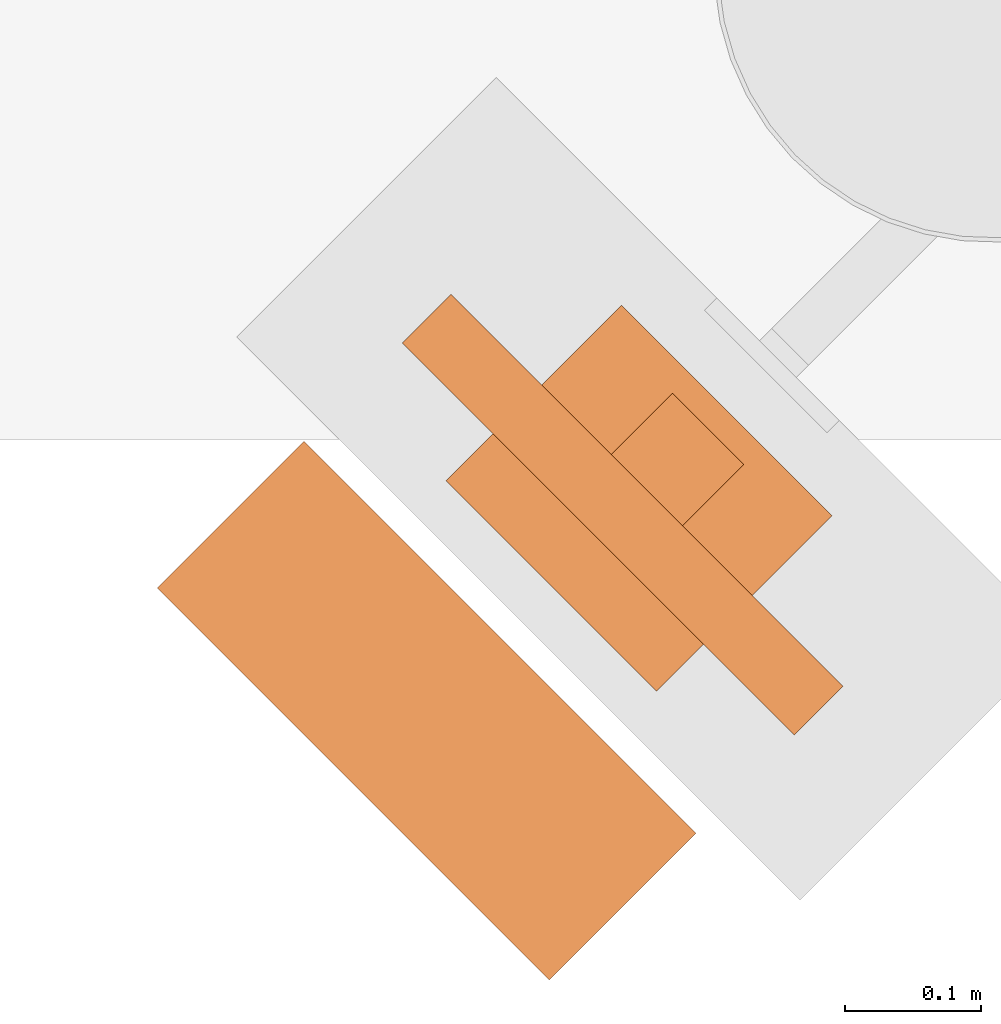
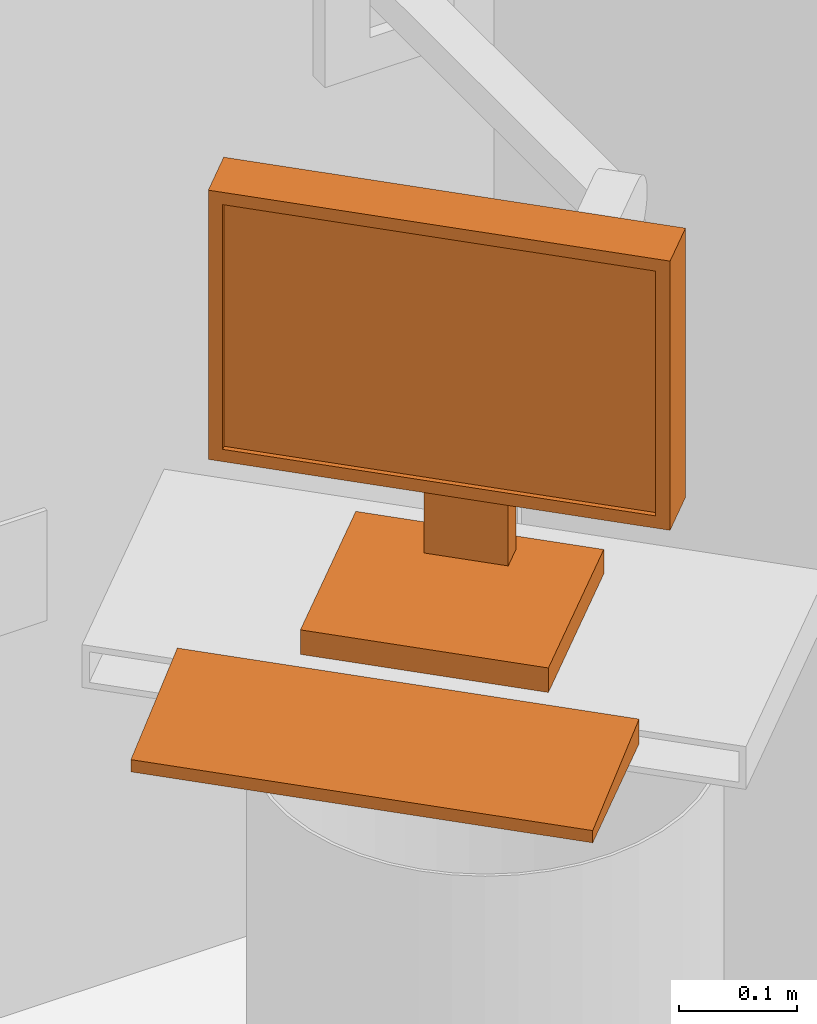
# One storey, part 3 of 3: 1 proxy.
"""IFC2X3 building model written with IfcOpenShell, lengths in feet."""

from ifc_helpers import new_model, entity, si_unit, converted_unit, derived_unit, direction, frame, origin, place, context, subcontext, project, spatial, faceted_brep, source, transform, mapped, type_object, type_shapes, element, save


model = new_model("IFC2X3")

# Units and contexts
model_context = context("Model", 3, precision=0.0001, world=origin(), true_north=direction((6.12303176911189e-17, 1.0)))
body_context = subcontext(model_context, "Body", "Model", "MODEL_VIEW")
ifc_project = project(units=[converted_unit("LENGTHUNIT", "FOOT", entity("IfcRatioMeasure", 0.3048), si_unit("LENGTHUNIT", "METRE"), dimensions=[1, 0, 0, 0, 0, 0, 0]), converted_unit("AREAUNIT", "SQUARE FOOT", entity("IfcRatioMeasure", 0.09290304), si_unit("AREAUNIT", "SQUARE_METRE"), dimensions=[2, 0, 0, 0, 0, 0, 0]), converted_unit("VOLUMEUNIT", "CUBIC FOOT", entity("IfcRatioMeasure", 0.028316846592), si_unit("VOLUMEUNIT", "CUBIC_METRE"), dimensions=[3, 0, 0, 0, 0, 0, 0]), converted_unit("PLANEANGLEUNIT", "DEGREE", entity("IfcRatioMeasure", 0.0174532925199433), si_unit("PLANEANGLEUNIT", "RADIAN"), dimensions=[0, 0, 0, 0, 0, 0, 0]), si_unit("MASSUNIT", "GRAM", prefix="KILO"), derived_unit("MASSDENSITYUNIT", [(si_unit("MASSUNIT", "GRAM", prefix="KILO"), 1), (si_unit("LENGTHUNIT", "METRE"), -3)]), si_unit("TIMEUNIT", "SECOND"), si_unit("FREQUENCYUNIT", "HERTZ"), si_unit("THERMODYNAMICTEMPERATUREUNIT", "DEGREE_CELSIUS"), derived_unit("THERMALTRANSMITTANCEUNIT", [(si_unit("MASSUNIT", "GRAM", prefix="KILO"), 1), (si_unit("THERMODYNAMICTEMPERATUREUNIT", "KELVIN"), -1), (si_unit("TIMEUNIT", "SECOND"), -3)]), derived_unit("VOLUMETRICFLOWRATEUNIT", [(si_unit("LENGTHUNIT", "METRE"), 3), (si_unit("TIMEUNIT", "SECOND"), -1)]), si_unit("ELECTRICCURRENTUNIT", "AMPERE"), si_unit("ELECTRICVOLTAGEUNIT", "VOLT"), si_unit("POWERUNIT", "WATT"), si_unit("FORCEUNIT", "NEWTON"), si_unit("ILLUMINANCEUNIT", "LUX"), si_unit("LUMINOUSFLUXUNIT", "LUMEN"), si_unit("LUMINOUSINTENSITYUNIT", "CANDELA"), derived_unit("USERDEFINED", [(si_unit("MASSUNIT", "GRAM", prefix="KILO"), -1), (si_unit("LENGTHUNIT", "METRE"), -2), (si_unit("TIMEUNIT", "SECOND"), 3), (si_unit("LUMINOUSFLUXUNIT", "LUMEN"), 1)]), derived_unit("LINEARVELOCITYUNIT", [(si_unit("LENGTHUNIT", "METRE"), 1), (si_unit("TIMEUNIT", "SECOND"), -1)]), si_unit("PRESSUREUNIT", "PASCAL"), derived_unit("USERDEFINED", [(si_unit("LENGTHUNIT", "METRE"), -2), (si_unit("MASSUNIT", "GRAM", prefix="KILO"), 1), (si_unit("TIMEUNIT", "SECOND"), -2)])], contexts=[model_context])

# Site, building, storey
site_placement = place(None, origin())
site = spatial("IfcSite", under=ifc_project, at=site_placement, Name="Default", CompositionType="ELEMENT")
building_placement = place(site_placement, origin())
building = spatial("IfcBuilding", under=site, at=building_placement, Name="OUTPATIENT / PACT CLINIC (Ch. 265)", CompositionType="ELEMENT")
storey_placement = place(building_placement, origin())
storey = spatial("IfcBuildingStorey", under=building, at=storey_placement, Name="DATUM", CompositionType="ELEMENT", Elevation=0.0)

# Proxy
building_element_proxy_type = type_object("IfcBuildingElementProxyType", Name="M1801 - Computer with Flat Panel Monitor", PredefinedType="NOTDEFINED")
shared_shape = source(origin(), body_context, "Body", "Brep", [
    faceted_brep([(0.666666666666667, -0.5625, 0.0), (0.666666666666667, -0.0624999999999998, 0.0), (0.666666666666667, -0.0624999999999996, 0.0833333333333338), (0.666666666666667, -0.5625, 0.0416666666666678), (-0.666666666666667, -0.5625, 0.0), (-0.666666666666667, -0.5625, 0.0416666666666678), (-0.666666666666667, -0.0624999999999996, 0.0833333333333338), (-0.666666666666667, -0.0624999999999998, 0.0)], [[[0, 1, 2, 3]], [[4, 5, 6, 7]], [[1, 0, 4, 7]], [[2, 1, 7, 6]], [[3, 2, 6, 5]], [[0, 3, 5, 4]]]),
    faceted_brep([(0.666666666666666, 0.437223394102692, 1.41666666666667), (-0.666666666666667, 0.437223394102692, 1.41666666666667), (-0.666666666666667, 0.271109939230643, 1.41666666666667), (0.666666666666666, 0.271109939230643, 1.41666666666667), (0.666666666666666, 0.437223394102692, 0.500000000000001), (0.666666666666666, 0.271109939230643, 0.500000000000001), (-0.666666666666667, 0.271109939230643, 0.500000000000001), (-0.666666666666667, 0.437223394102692, 0.500000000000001), (-0.625, 0.271109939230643, 1.375), (0.625, 0.271109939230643, 1.375), (0.625, 0.271109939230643, 0.541666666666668), (-0.625, 0.271109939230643, 0.541666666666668), (0.625, 0.286812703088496, 1.375), (-0.625, 0.286812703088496, 1.375), (0.625, 0.286812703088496, 0.541666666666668), (-0.625, 0.286812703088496, 0.541666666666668)], [[[0, 1, 2, 3]], [[4, 5, 6, 7]], [[1, 0, 4, 7]], [[2, 1, 7, 6]], [[3, 2, 6, 5], [8, 9, 10, 11]], [[0, 3, 5, 4]], [[12, 9, 8, 13]], [[14, 15, 11, 10]], [[12, 13, 15, 14]], [[13, 8, 11, 15]], [[9, 12, 14, 10]]]),
    faceted_brep([(0.358011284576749, 0.111770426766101, 0.0833333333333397), (0.358011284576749, 0.111770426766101, 0.0), (0.358011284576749, 0.708333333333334, 0.0), (0.358011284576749, 0.708333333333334, 0.0833333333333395), (-0.358011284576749, 0.708333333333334, 0.0833333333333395), (-0.358011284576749, 0.708333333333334, 0.0), (-0.358011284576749, 0.111770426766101, 0.0), (-0.358011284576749, 0.111770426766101, 0.0833333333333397), (0.12128795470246, 0.645556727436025, 0.104166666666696), (0.12128795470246, 0.645556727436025, 0.0833333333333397), (-0.12128795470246, 0.645556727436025, 0.0833333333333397), (-0.12128795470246, 0.645556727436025, 0.104166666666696), (0.12128795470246, 0.645556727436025, 0.958333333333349), (-0.12128795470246, 0.645556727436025, 0.958333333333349), (0.12128795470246, 0.437223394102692, 0.958333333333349), (-0.12128795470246, 0.437223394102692, 0.958333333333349), (0.12128795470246, 0.437223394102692, 0.791666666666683), (-0.12128795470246, 0.437223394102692, 0.791666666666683), (0.12128795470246, 0.562223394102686, 0.791666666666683), (-0.12128795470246, 0.562223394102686, 0.791666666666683), (0.12128795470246, 0.562223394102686, 0.0833333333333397), (-0.12128795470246, 0.562223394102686, 0.0833333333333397)], [[[0, 1, 2, 3]], [[4, 5, 6, 7]], [[8, 9, 10, 11]], [[12, 8, 11, 13]], [[14, 12, 13, 15]], [[16, 14, 15, 17]], [[18, 16, 17, 19]], [[20, 18, 19, 21]], [[0, 3, 4, 7], [9, 20, 21, 10]], [[1, 0, 7, 6]], [[2, 1, 6, 5]], [[3, 2, 5, 4]], [[20, 9, 8, 12, 14, 16, 18]], [[10, 21, 19, 17, 15, 13, 11]]]),
])
type_shapes(building_element_proxy_type, [shared_shape])
proxy_placement = place(storey_placement, frame((34.6777637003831, -857.498757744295, 3.0), z_axis=(0.0, 0.0, 1.0), x_axis=(0.707106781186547, -0.707106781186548, 0.0)))
element("IfcBuildingElementProxy", 1, at=proxy_placement, inside=storey, type_object=building_element_proxy_type, Name="M1801 - Computer with Flat Panel Monitor:M1801 - Computer with Flat Panel Monitor", ObjectType="M1801 - Computer with Flat Panel Monitor", context=body_context, shape_type="MappedRepresentation", body=[
    mapped(shared_shape, transform((0.0, 0.0, 0.0), scale=1.0)),
])

save(model, "model.ifc")
